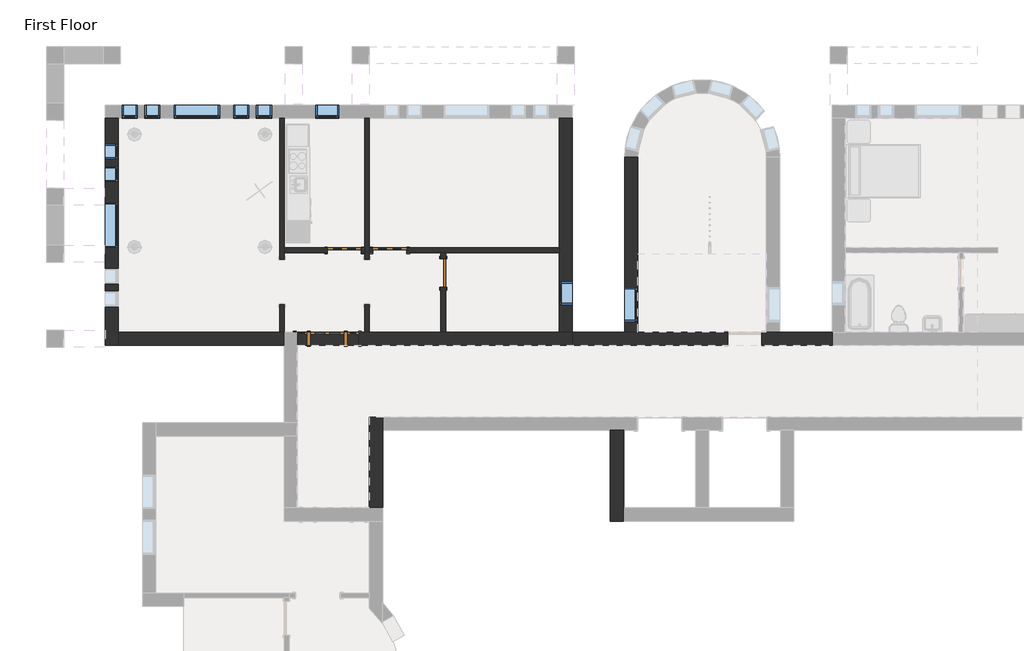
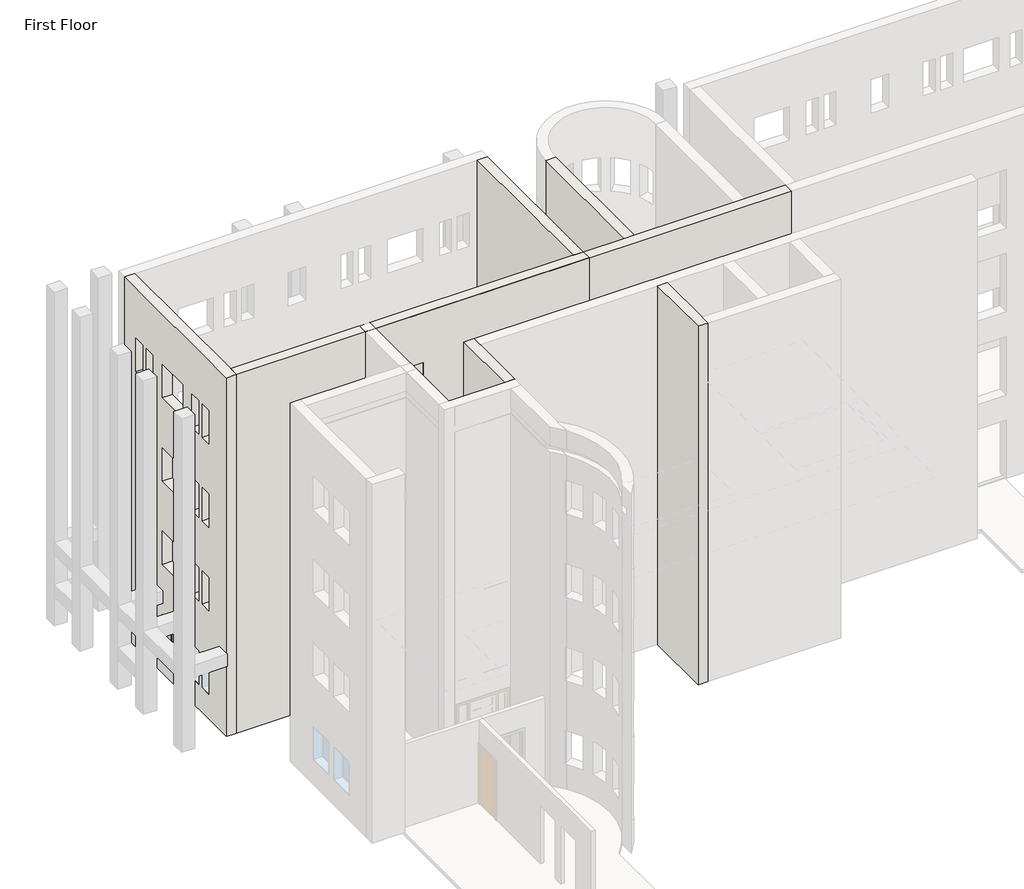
# One storey, part 14 of 23: 12 walls, 11 windows, 4 doors.
"""IFC4 building model written with IfcOpenShell, lengths in millimetres."""

from ifc_helpers import new_model, si_unit, frame, origin, place, context, project, spatial, polyline, outline, extrude, faceted_brep, transform, mapped, element, save
from components import door_829da954, door_2e3b4da2, door_e36758a9, door_ffdb1193, window_da97879f, window_d61ef850, window_ed80354a, window_15c49d37, window_d89bf842

model = new_model("IFC4")

# Units and contexts
model_context = context("Model", 3, world=origin())
ifc_project = project(units=[si_unit("LENGTHUNIT", "METRE", prefix="MILLI")], contexts=[model_context])

# Site, building, storey
site = spatial("IfcSite", under=ifc_project)
building = spatial("IfcBuilding", under=site)
storey = spatial("IfcBuildingStorey", under=building, Name="First Floor", Elevation=0.0)

# Doors
placement = place(None, origin())
door_shape = door_829da954(model_context)
element("IfcDoor", 1, ObjectType="Single-Decorative 2 : 36\" x 84\"", at=placement, inside=storey, context=model_context, shape_type="MappedRepresentation", body=[
    mapped(door_shape, transform((-23455.2839563, 6723.5441867, 0.0), x_axis=(-1.0, 0.0, 0.0), y_axis=(0.0, -1.0, 0.0), z_axis=(0.0, 0.0, 1.0))),
])
door_2_shape = door_2e3b4da2(model_context)
element("IfcDoor", 2, ObjectType="Single-Decorative 2 : 36\" x 84\"", at=placement, inside=storey, context=model_context, shape_type="MappedRepresentation", body=[
    mapped(door_2_shape, transform((-24674.4839563, 6723.5441867, 0.0), x_axis=(1.0, 0.0, 0.0), y_axis=(0.0, 1.0, 0.0), z_axis=(0.0, 0.0, 1.0))),
])
door_3_shape = door_e36758a9(model_context)
element("IfcDoor", 3, ObjectType="Single-Flush : 30\" x 84\"", at=placement, inside=storey, context=model_context, shape_type="MappedRepresentation", body=[
    mapped(door_3_shape, transform((-22018.5964563, 6113.9441867, 0.0), x_axis=(0.0, 1.0, 0.0), y_axis=(-1.0, 0.0, 0.0), z_axis=(0.0, 0.0, 1.0))),
])
door_4_shape = door_ffdb1193(model_context)
element("IfcDoor", 4, ObjectType="Single-Raised Panel with Sidelights : 36\" x 84\"", at=placement, inside=storey, context=model_context, shape_type="MappedRepresentation", body=[
    mapped(door_4_shape, transform((-25131.6839563, 4350.2316867, 0.0), x_axis=(1.0, 0.0, 0.0), y_axis=(0.0, 1.0, 0.0), z_axis=(0.0, 0.0, 1.0))),
])

# Walls
element("IfcWall", 5, ObjectType="Exterior - Brick on Mtl. Stud", at=placement, inside=storey, context=model_context, shape_type="Brep", body=[
    faceted_brep([(-17524.3839563, 1888.0191867, 0.0), (-17524.3839563, -550.3808133, 0.0), (-17524.3839563, -550.3808133, 13106.4), (-17524.3839563, 1888.0191867, 13106.4), (-17171.9589563, 1888.0191867, 0.0), (-17171.9589563, 1888.0191867, 13106.4), (-17171.9589563, -197.9558133, 13106.4), (-17171.9589563, -550.3808133, 13106.4), (-17171.9589563, -550.3808133, 0.0), (-17171.9589563, -197.9558133, 0.0)], [[[0, 1, 2, 3]], [[4, 5, 6, 7, 8, 9]], [[1, 0, 4, 9, 8]], [[3, 2, 7, 6, 5]], [[2, 1, 8, 7]], [[0, 3, 5, 4]]]),
])
element("IfcWall", 6, ObjectType="Exterior - Brick on Mtl. Stud", at=placement, inside=storey, context=model_context, shape_type="SweptSolid", body=[
    extrude(outline(polyline([(4526.4441867, 0.0), (4526.4441867, 13106.4), (9227.0316867, 13106.4), (9227.0316867, 0.0), (4526.4441867, 0.0)]), holes=[polyline([(4807.4316867, 8229.6), (4807.4316867, 7010.4), (5721.8316867, 7010.4), (5721.8316867, 8229.6), (4807.4316867, 8229.6)]), polyline([(4807.4316867, 5181.6), (4807.4316867, 3962.4), (5721.8316867, 3962.4), (5721.8316867, 5181.6), (4807.4316867, 5181.6)]), polyline([(4807.4316867, 11277.6), (4807.4316867, 10058.4), (5721.8316867, 10058.4), (5721.8316867, 11277.6), (4807.4316867, 11277.6)]), polyline([(4807.4316867, 2133.6), (4807.4316867, 914.4), (5721.8316867, 914.4), (5721.8316867, 2133.6), (4807.4316867, 2133.6)])]), frame((-17143.3839563, 0.0, 0.0), z_axis=(1.0, 0.0, 0.0), x_axis=(0.0, 1.0, 0.0)), (0.0, 0.0, 1.0), 352.425),
])
element("IfcWall", 7, ObjectType="Exterior - Brick on Mtl. Stud", at=placement, inside=storey, context=model_context, shape_type="Brep", body=[
    faceted_brep([(-24001.3839563, 2240.4441867, 0.0), (-24001.3839563, -197.9558133, 0.0), (-24001.3839563, -197.9558133, 13106.4), (-24001.3839563, 2240.4441867, 13106.4), (-23648.9589563, 2240.4441867, 0.0), (-23648.9589563, 2240.4441867, 13106.4), (-23648.9589563, 1888.0191867, 13106.4), (-23648.9589563, -197.9558133, 13106.4), (-23648.9589563, -197.9558133, 0.0), (-23648.9589563, 1888.0191867, 0.0)], [[[0, 1, 2, 3]], [[4, 5, 6, 7, 8, 9]], [[1, 0, 4, 9, 8]], [[3, 2, 7, 6, 5]], [[0, 3, 5, 4]], [[2, 1, 8, 7]]]),
])
element("IfcWall", 8, ObjectType="Exterior - Brick on Mtl. Stud", at=placement, inside=storey, context=model_context, shape_type="Brep", body=[
    faceted_brep([(-11571.2589563, 4526.4441867, 0.0), (-12980.9589563, 4526.4441867, 0.0), (-13333.3839563, 4526.4441867, 0.0), (-13461.9714563, 4526.4441867, 0.0), (-13461.9714563, 4526.4441867, 2133.6), (-14376.3714563, 4526.4441867, 2133.6), (-14376.3714563, 4526.4441867, 0.0), (-16790.9589563, 4526.4441867, 0.0), (-17143.3839563, 4526.4441867, 0.0), (-18554.6714563, 4526.4441867, 0.0), (-18907.0964563, 4526.4441867, 0.0), (-21955.0964563, 4526.4441867, 0.0), (-22082.0964563, 4526.4441867, 0.0), (-24001.3839563, 4526.4441867, 0.0), (-24128.3839563, 4526.4441867, 0.0), (-25934.9589563, 4526.4441867, 0.0), (-25934.9589563, 4526.4441867, 13106.4), (-18907.0964563, 4526.4441867, 13106.4), (-18554.6714563, 4526.4441867, 13106.4), (-17143.3839563, 4526.4441867, 13106.4), (-16790.9589563, 4526.4441867, 13106.4), (-13333.3839563, 4526.4441867, 13106.4), (-12980.9589563, 4526.4441867, 13106.4), (-11571.2589563, 4526.4441867, 13106.4), (-14376.3714563, 4526.4441867, 9144.0), (-13461.9714563, 4526.4441867, 9144.0), (-13461.9714563, 4526.4441867, 11277.6), (-14376.3714563, 4526.4441867, 11277.6), (-14376.3714563, 4526.4441867, 3048.0), (-13461.9714563, 4526.4441867, 3048.0), (-13461.9714563, 4526.4441867, 5181.6), (-14376.3714563, 4526.4441867, 5181.6), (-14376.3714563, 4526.4441867, 6096.0), (-13461.9714563, 4526.4441867, 6096.0), (-13461.9714563, 4526.4441867, 8229.6), (-14376.3714563, 4526.4441867, 8229.6), (-13461.9714563, 4174.0191867, 2133.6), (-13461.9714563, 4174.0191867, 0.0), (-11571.2589563, 4174.0191867, 0.0), (-11571.2589563, 4174.0191867, 13106.4), (-25934.9589563, 4174.0191867, 13106.4), (-25934.9589563, 4174.0191867, 0.0), (-14376.3714563, 4174.0191867, 0.0), (-14376.3714563, 4174.0191867, 2133.6), (-14376.3714563, 4174.0191867, 9144.0), (-14376.3714563, 4174.0191867, 11277.6), (-13461.9714563, 4174.0191867, 11277.6), (-13461.9714563, 4174.0191867, 9144.0), (-14376.3714563, 4174.0191867, 3048.0), (-14376.3714563, 4174.0191867, 5181.6), (-13461.9714563, 4174.0191867, 5181.6), (-13461.9714563, 4174.0191867, 3048.0), (-14376.3714563, 4174.0191867, 6096.0), (-14376.3714563, 4174.0191867, 8229.6), (-13461.9714563, 4174.0191867, 8229.6), (-13461.9714563, 4174.0191867, 6096.0)], [[[0, 1, 2, 3, 4, 5, 6, 7, 8, 9, 10, 11, 12, 13, 14, 15, 16, 17, 18, 19, 20, 21, 22, 23], [24, 25, 26, 27], [28, 29, 30, 31], [32, 33, 34, 35]], [[36, 37, 38, 39, 40, 41, 42, 43], [44, 45, 46, 47], [48, 49, 50, 51], [52, 53, 54, 55]], [[38, 37, 3, 2, 1, 0]], [[42, 41, 15, 14, 13, 12, 11, 10, 9, 8, 7, 6]], [[23, 22, 21, 20, 19, 18, 17, 16, 40, 39]], [[0, 23, 39, 38]], [[16, 15, 41, 40]], [[4, 3, 37, 36]], [[5, 4, 36, 43]], [[6, 5, 43, 42]], [[25, 24, 44, 47]], [[26, 25, 47, 46]], [[27, 26, 46, 45]], [[24, 27, 45, 44]], [[29, 28, 48, 51]], [[30, 29, 51, 50]], [[31, 30, 50, 49]], [[28, 31, 49, 48]], [[33, 32, 52, 55]], [[34, 33, 55, 54]], [[35, 34, 54, 53]], [[32, 35, 53, 52]]]),
])
element("IfcWall", 9, ObjectType="Exterior - Brick on Mtl. Stud", at=placement, inside=storey, context=model_context, shape_type="Brep", body=[
    faceted_brep([(-31099.0964563, 10270.0191867, 0.0), (-31099.0964563, 4361.3441867, 0.0), (-31099.0964563, 4174.0191867, 0.0), (-31099.0964563, 4174.0191867, 13106.4), (-31099.0964563, 10270.0191867, 13106.4), (-31099.0964563, 5823.4316867, 8229.6), (-31099.0964563, 5823.4316867, 7010.4), (-31099.0964563, 6229.8316867, 7010.4), (-31099.0964563, 6229.8316867, 8229.6), (-31099.0964563, 5213.8316867, 8229.6), (-31099.0964563, 5213.8316867, 7010.4), (-31099.0964563, 5620.2316867, 7010.4), (-31099.0964563, 5620.2316867, 8229.6), (-31099.0964563, 8973.0316867, 8229.6), (-31099.0964563, 8566.6316867, 8229.6), (-31099.0964563, 8566.6316867, 7010.4), (-31099.0964563, 8973.0316867, 7010.4), (-31099.0964563, 9582.6316867, 8229.6), (-31099.0964563, 9176.2316867, 8229.6), (-31099.0964563, 9176.2316867, 7010.4), (-31099.0964563, 9582.6316867, 7010.4), (-31099.0964563, 8007.8316867, 8229.6), (-31099.0964563, 6788.6316867, 8229.6), (-31099.0964563, 6788.6316867, 7010.4), (-31099.0964563, 8007.8316867, 7010.4), (-31099.0964563, 5823.4316867, 5181.6), (-31099.0964563, 5823.4316867, 3962.4), (-31099.0964563, 6229.8316867, 3962.4), (-31099.0964563, 6229.8316867, 5181.6), (-31099.0964563, 5213.8316867, 5181.6), (-31099.0964563, 5213.8316867, 3962.4), (-31099.0964563, 5620.2316867, 3962.4), (-31099.0964563, 5620.2316867, 5181.6), (-31099.0964563, 8973.0316867, 5181.6), (-31099.0964563, 8566.6316867, 5181.6), (-31099.0964563, 8566.6316867, 3962.4), (-31099.0964563, 8973.0316867, 3962.4), (-31099.0964563, 9582.6316867, 5181.6), (-31099.0964563, 9176.2316867, 5181.6), (-31099.0964563, 9176.2316867, 3962.4), (-31099.0964563, 9582.6316867, 3962.4), (-31099.0964563, 8007.8316867, 5181.6), (-31099.0964563, 6788.6316867, 5181.6), (-31099.0964563, 6788.6316867, 3962.4), (-31099.0964563, 8007.8316867, 3962.4), (-31099.0964563, 5823.4316867, 11277.6), (-31099.0964563, 5823.4316867, 10058.4), (-31099.0964563, 6229.8316867, 10058.4), (-31099.0964563, 6229.8316867, 11277.6), (-31099.0964563, 5213.8316867, 11277.6), (-31099.0964563, 5213.8316867, 10058.4), (-31099.0964563, 5620.2316867, 10058.4), (-31099.0964563, 5620.2316867, 11277.6), (-31099.0964563, 8973.0316867, 11277.6), (-31099.0964563, 8566.6316867, 11277.6), (-31099.0964563, 8566.6316867, 10058.4), (-31099.0964563, 8973.0316867, 10058.4), (-31099.0964563, 9582.6316867, 11277.6), (-31099.0964563, 9176.2316867, 11277.6), (-31099.0964563, 9176.2316867, 10058.4), (-31099.0964563, 9582.6316867, 10058.4), (-31099.0964563, 8007.8316867, 11277.6), (-31099.0964563, 6788.6316867, 11277.6), (-31099.0964563, 6788.6316867, 10058.4), (-31099.0964563, 8007.8316867, 10058.4), (-31099.0964563, 5823.4316867, 2133.6), (-31099.0964563, 5823.4316867, 914.4), (-31099.0964563, 6229.8316867, 914.4), (-31099.0964563, 6229.8316867, 2133.6), (-31099.0964563, 5213.8316867, 2133.6), (-31099.0964563, 5213.8316867, 914.4), (-31099.0964563, 5620.2316867, 914.4), (-31099.0964563, 5620.2316867, 2133.6), (-31099.0964563, 8973.0316867, 2133.6), (-31099.0964563, 8566.6316867, 2133.6), (-31099.0964563, 8566.6316867, 914.4), (-31099.0964563, 8973.0316867, 914.4), (-31099.0964563, 9582.6316867, 2133.6), (-31099.0964563, 9176.2316867, 2133.6), (-31099.0964563, 9176.2316867, 914.4), (-31099.0964563, 9582.6316867, 914.4), (-31099.0964563, 8007.8316867, 2133.6), (-31099.0964563, 6788.6316867, 2133.6), (-31099.0964563, 6788.6316867, 914.4), (-31099.0964563, 8007.8316867, 914.4), (-30746.6714563, 10270.0191867, 0.0), (-30746.6714563, 10270.0191867, 13106.4), (-30746.6714563, 4526.4441867, 13106.4), (-30746.6714563, 4174.0191867, 13106.4), (-30746.6714563, 4174.0191867, 0.0), (-30746.6714563, 4361.3441867, 0.0), (-30746.6714563, 4526.4441867, 0.0), (-30746.6714563, 5823.4316867, 8229.6), (-30746.6714563, 6229.8316867, 8229.6), (-30746.6714563, 6229.8316867, 7010.4), (-30746.6714563, 5823.4316867, 7010.4), (-30746.6714563, 5213.8316867, 8229.6), (-30746.6714563, 5620.2316867, 8229.6), (-30746.6714563, 5620.2316867, 7010.4), (-30746.6714563, 5213.8316867, 7010.4), (-30746.6714563, 8973.0316867, 8229.6), (-30746.6714563, 8973.0316867, 7010.4), (-30746.6714563, 8566.6316867, 7010.4), (-30746.6714563, 8566.6316867, 8229.6), (-30746.6714563, 9582.6316867, 8229.6), (-30746.6714563, 9582.6316867, 7010.4), (-30746.6714563, 9176.2316867, 7010.4), (-30746.6714563, 9176.2316867, 8229.6), (-30746.6714563, 8007.8316867, 8229.6), (-30746.6714563, 8007.8316867, 7010.4), (-30746.6714563, 6788.6316867, 7010.4), (-30746.6714563, 6788.6316867, 8229.6), (-30746.6714563, 5823.4316867, 5181.6), (-30746.6714563, 6229.8316867, 5181.6), (-30746.6714563, 6229.8316867, 3962.4), (-30746.6714563, 5823.4316867, 3962.4), (-30746.6714563, 5213.8316867, 5181.6), (-30746.6714563, 5620.2316867, 5181.6), (-30746.6714563, 5620.2316867, 3962.4), (-30746.6714563, 5213.8316867, 3962.4), (-30746.6714563, 8973.0316867, 5181.6), (-30746.6714563, 8973.0316867, 3962.4), (-30746.6714563, 8566.6316867, 3962.4), (-30746.6714563, 8566.6316867, 5181.6), (-30746.6714563, 9582.6316867, 5181.6), (-30746.6714563, 9582.6316867, 3962.4), (-30746.6714563, 9176.2316867, 3962.4), (-30746.6714563, 9176.2316867, 5181.6), (-30746.6714563, 8007.8316867, 5181.6), (-30746.6714563, 8007.8316867, 3962.4), (-30746.6714563, 6788.6316867, 3962.4), (-30746.6714563, 6788.6316867, 5181.6), (-30746.6714563, 5823.4316867, 11277.6), (-30746.6714563, 6229.8316867, 11277.6), (-30746.6714563, 6229.8316867, 10058.4), (-30746.6714563, 5823.4316867, 10058.4), (-30746.6714563, 5213.8316867, 11277.6), (-30746.6714563, 5620.2316867, 11277.6), (-30746.6714563, 5620.2316867, 10058.4), (-30746.6714563, 5213.8316867, 10058.4), (-30746.6714563, 8973.0316867, 11277.6), (-30746.6714563, 8973.0316867, 10058.4), (-30746.6714563, 8566.6316867, 10058.4), (-30746.6714563, 8566.6316867, 11277.6), (-30746.6714563, 9582.6316867, 11277.6), (-30746.6714563, 9582.6316867, 10058.4), (-30746.6714563, 9176.2316867, 10058.4), (-30746.6714563, 9176.2316867, 11277.6), (-30746.6714563, 8007.8316867, 11277.6), (-30746.6714563, 8007.8316867, 10058.4), (-30746.6714563, 6788.6316867, 10058.4), (-30746.6714563, 6788.6316867, 11277.6), (-30746.6714563, 5823.4316867, 2133.6), (-30746.6714563, 6229.8316867, 2133.6), (-30746.6714563, 6229.8316867, 914.4), (-30746.6714563, 5823.4316867, 914.4), (-30746.6714563, 5213.8316867, 2133.6), (-30746.6714563, 5620.2316867, 2133.6), (-30746.6714563, 5620.2316867, 914.4), (-30746.6714563, 5213.8316867, 914.4), (-30746.6714563, 8973.0316867, 2133.6), (-30746.6714563, 8973.0316867, 914.4), (-30746.6714563, 8566.6316867, 914.4), (-30746.6714563, 8566.6316867, 2133.6), (-30746.6714563, 9582.6316867, 2133.6), (-30746.6714563, 9582.6316867, 914.4), (-30746.6714563, 9176.2316867, 914.4), (-30746.6714563, 9176.2316867, 2133.6), (-30746.6714563, 8007.8316867, 2133.6), (-30746.6714563, 8007.8316867, 914.4), (-30746.6714563, 6788.6316867, 914.4), (-30746.6714563, 6788.6316867, 2133.6), (-30911.7714563, 4174.0191867, 0.0), (-30911.7714563, 10270.0191867, 0.0), (-30911.7714563, 4361.3441867, 0.0)], [[[0, 1, 2, 3, 4], [5, 6, 7, 8], [9, 10, 11, 12], [13, 14, 15, 16], [17, 18, 19, 20], [21, 22, 23, 24], [25, 26, 27, 28], [29, 30, 31, 32], [33, 34, 35, 36], [37, 38, 39, 40], [41, 42, 43, 44], [45, 46, 47, 48], [49, 50, 51, 52], [53, 54, 55, 56], [57, 58, 59, 60], [61, 62, 63, 64], [65, 66, 67, 68], [69, 70, 71, 72], [73, 74, 75, 76], [77, 78, 79, 80], [81, 82, 83, 84]], [[85, 86, 87, 88, 89, 90, 91], [92, 93, 94, 95], [96, 97, 98, 99], [100, 101, 102, 103], [104, 105, 106, 107], [108, 109, 110, 111], [112, 113, 114, 115], [116, 117, 118, 119], [120, 121, 122, 123], [124, 125, 126, 127], [128, 129, 130, 131], [132, 133, 134, 135], [136, 137, 138, 139], [140, 141, 142, 143], [144, 145, 146, 147], [148, 149, 150, 151], [152, 153, 154, 155], [156, 157, 158, 159], [160, 161, 162, 163], [164, 165, 166, 167], [168, 169, 170, 171]], [[4, 3, 88, 87, 86]], [[3, 2, 172, 89, 88]], [[0, 4, 86, 85, 173]], [[90, 89, 172, 174]], [[1, 0, 173, 174]], [[2, 1, 174, 172]], [[173, 85, 91, 90, 174]], [[6, 5, 92, 95]], [[7, 6, 95, 94]], [[8, 7, 94, 93]], [[5, 8, 93, 92]], [[10, 9, 96, 99]], [[11, 10, 99, 98]], [[12, 11, 98, 97]], [[9, 12, 97, 96]], [[101, 100, 13, 16]], [[102, 101, 16, 15]], [[103, 102, 15, 14]], [[100, 103, 14, 13]], [[105, 104, 17, 20]], [[106, 105, 20, 19]], [[107, 106, 19, 18]], [[104, 107, 18, 17]], [[109, 108, 21, 24]], [[110, 109, 24, 23]], [[111, 110, 23, 22]], [[108, 111, 22, 21]], [[26, 25, 112, 115]], [[27, 26, 115, 114]], [[28, 27, 114, 113]], [[25, 28, 113, 112]], [[30, 29, 116, 119]], [[31, 30, 119, 118]], [[32, 31, 118, 117]], [[29, 32, 117, 116]], [[121, 120, 33, 36]], [[122, 121, 36, 35]], [[123, 122, 35, 34]], [[120, 123, 34, 33]], [[125, 124, 37, 40]], [[126, 125, 40, 39]], [[127, 126, 39, 38]], [[124, 127, 38, 37]], [[129, 128, 41, 44]], [[130, 129, 44, 43]], [[131, 130, 43, 42]], [[128, 131, 42, 41]], [[46, 45, 132, 135]], [[47, 46, 135, 134]], [[48, 47, 134, 133]], [[45, 48, 133, 132]], [[50, 49, 136, 139]], [[51, 50, 139, 138]], [[52, 51, 138, 137]], [[49, 52, 137, 136]], [[141, 140, 53, 56]], [[142, 141, 56, 55]], [[143, 142, 55, 54]], [[140, 143, 54, 53]], [[145, 144, 57, 60]], [[146, 145, 60, 59]], [[147, 146, 59, 58]], [[144, 147, 58, 57]], [[149, 148, 61, 64]], [[150, 149, 64, 63]], [[151, 150, 63, 62]], [[148, 151, 62, 61]], [[66, 65, 152, 155]], [[67, 66, 155, 154]], [[68, 67, 154, 153]], [[65, 68, 153, 152]], [[70, 69, 156, 159]], [[71, 70, 159, 158]], [[72, 71, 158, 157]], [[69, 72, 157, 156]], [[161, 160, 73, 76]], [[162, 161, 76, 75]], [[163, 162, 75, 74]], [[160, 163, 74, 73]], [[165, 164, 77, 80]], [[166, 165, 80, 79]], [[167, 166, 79, 78]], [[164, 167, 78, 77]], [[169, 168, 81, 84]], [[170, 169, 84, 83]], [[171, 170, 83, 82]], [[168, 171, 82, 81]]]),
])
element("IfcWall", 10, ObjectType="Exterior - Brick on Mtl. Stud", at=placement, inside=storey, context=model_context, shape_type="Brep", body=[
    faceted_brep([(-24293.4839563, 4174.0191867, 2133.6), (-24293.4839563, 4174.0191867, 0.0), (-18553.0839563, 4174.0191867, 0.0), (-18553.0839563, 4174.0191867, 13106.4), (-30746.6714563, 4174.0191867, 13106.4), (-30746.6714563, 4174.0191867, 0.0), (-25969.8839563, 4174.0191867, 0.0), (-25969.8839563, 4174.0191867, 2133.6), (-25969.8839563, 4174.0191867, 6096.0), (-25969.8839563, 4174.0191867, 8229.6), (-24293.4839563, 4174.0191867, 8229.6), (-24293.4839563, 4174.0191867, 6096.0), (-25969.8839563, 4174.0191867, 3048.0), (-25969.8839563, 4174.0191867, 5181.6), (-24293.4839563, 4174.0191867, 5181.6), (-24293.4839563, 4174.0191867, 3048.0), (-25969.8839563, 4174.0191867, 9144.0), (-25969.8839563, 4174.0191867, 11277.6), (-24293.4839563, 4174.0191867, 11277.6), (-24293.4839563, 4174.0191867, 9144.0), (-18553.0839563, 4526.4441867, 0.0), (-18554.6714563, 4526.4441867, 0.0), (-18907.0964563, 4526.4441867, 0.0), (-21955.0964563, 4526.4441867, 0.0), (-22082.0964563, 4526.4441867, 0.0), (-24001.3839563, 4526.4441867, 0.0), (-24128.3839563, 4526.4441867, 0.0), (-24293.4839563, 4526.4441867, 0.0), (-24293.4839563, 4526.4441867, 2133.6), (-25969.8839563, 4526.4441867, 2133.6), (-25969.8839563, 4526.4441867, 0.0), (-26287.3839563, 4526.4441867, 0.0), (-26414.3839563, 4526.4441867, 0.0), (-30746.6714563, 4526.4441867, 0.0), (-30746.6714563, 4526.4441867, 13106.4), (-18907.0964563, 4526.4441867, 13106.4), (-18554.6714563, 4526.4441867, 13106.4), (-18553.0839563, 4526.4441867, 13106.4), (-25969.8839563, 4526.4441867, 6096.0), (-24293.4839563, 4526.4441867, 6096.0), (-24293.4839563, 4526.4441867, 8229.6), (-25969.8839563, 4526.4441867, 8229.6), (-25969.8839563, 4526.4441867, 3048.0), (-24293.4839563, 4526.4441867, 3048.0), (-24293.4839563, 4526.4441867, 5181.6), (-25969.8839563, 4526.4441867, 5181.6), (-25969.8839563, 4526.4441867, 9144.0), (-24293.4839563, 4526.4441867, 9144.0), (-24293.4839563, 4526.4441867, 11277.6), (-25969.8839563, 4526.4441867, 11277.6)], [[[0, 1, 2, 3, 4, 5, 6, 7], [8, 9, 10, 11], [12, 13, 14, 15], [16, 17, 18, 19]], [[20, 21, 22, 23, 24, 25, 26, 27, 28, 29, 30, 31, 32, 33, 34, 35, 36, 37], [38, 39, 40, 41], [42, 43, 44, 45], [46, 47, 48, 49]], [[2, 1, 27, 26, 25, 24, 23, 22, 21, 20]], [[6, 5, 33, 32, 31, 30]], [[3, 2, 20, 37]], [[4, 3, 37, 36, 35, 34]], [[5, 4, 34, 33]], [[28, 27, 1, 0]], [[29, 28, 0, 7]], [[30, 29, 7, 6]], [[39, 38, 8, 11]], [[40, 39, 11, 10]], [[41, 40, 10, 9]], [[38, 41, 9, 8]], [[43, 42, 12, 15]], [[44, 43, 15, 14]], [[45, 44, 14, 13]], [[42, 45, 13, 12]], [[47, 46, 16, 19]], [[48, 47, 19, 18]], [[49, 48, 18, 17]], [[46, 49, 17, 16]]]),
])
element("IfcWall", 11, ObjectType="Exterior - Brick on Mtl. Stud", at=placement, inside=storey, context=model_context, shape_type="Brep", body=[
    faceted_brep([(-18554.6714563, 4526.4441867, 0.0), (-18554.6714563, 10270.0191867, 0.0), (-18554.6714563, 10270.0191867, 13106.4), (-18554.6714563, 4526.4441867, 13106.4), (-18554.6714563, 5264.6316867, 8229.6), (-18554.6714563, 5874.2316867, 8229.6), (-18554.6714563, 5874.2316867, 7010.4), (-18554.6714563, 5264.6316867, 7010.4), (-18554.6714563, 5264.6316867, 5181.6), (-18554.6714563, 5874.2316867, 5181.6), (-18554.6714563, 5874.2316867, 3962.4), (-18554.6714563, 5264.6316867, 3962.4), (-18554.6714563, 5264.6316867, 11277.6), (-18554.6714563, 5874.2316867, 11277.6), (-18554.6714563, 5874.2316867, 10058.4), (-18554.6714563, 5264.6316867, 10058.4), (-18554.6714563, 5264.6316867, 2133.6), (-18554.6714563, 5874.2316867, 2133.6), (-18554.6714563, 5874.2316867, 914.4), (-18554.6714563, 5264.6316867, 914.4), (-18907.0964563, 4526.4441867, 0.0), (-18907.0964563, 4526.4441867, 13106.4), (-18907.0964563, 10270.0191867, 13106.4), (-18907.0964563, 10270.0191867, 0.0), (-18907.0964563, 6787.0441867, 0.0), (-18907.0964563, 6660.0441867, 0.0), (-18907.0964563, 5264.6316867, 8229.6), (-18907.0964563, 5264.6316867, 7010.4), (-18907.0964563, 5874.2316867, 7010.4), (-18907.0964563, 5874.2316867, 8229.6), (-18907.0964563, 5264.6316867, 5181.6), (-18907.0964563, 5264.6316867, 3962.4), (-18907.0964563, 5874.2316867, 3962.4), (-18907.0964563, 5874.2316867, 5181.6), (-18907.0964563, 5264.6316867, 11277.6), (-18907.0964563, 5264.6316867, 10058.4), (-18907.0964563, 5874.2316867, 10058.4), (-18907.0964563, 5874.2316867, 11277.6), (-18907.0964563, 5264.6316867, 2133.6), (-18907.0964563, 5264.6316867, 914.4), (-18907.0964563, 5874.2316867, 914.4), (-18907.0964563, 5874.2316867, 2133.6), (-18741.9964563, 4526.4441867, 0.0), (-18741.9964563, 10270.0191867, 0.0)], [[[0, 1, 2, 3], [4, 5, 6, 7], [8, 9, 10, 11], [12, 13, 14, 15], [16, 17, 18, 19]], [[20, 21, 22, 23, 24, 25], [26, 27, 28, 29], [30, 31, 32, 33], [34, 35, 36, 37], [38, 39, 40, 41]], [[3, 2, 22, 21]], [[0, 3, 21, 20, 42]], [[2, 1, 43, 23, 22]], [[1, 0, 42, 43]], [[42, 20, 25, 24, 23, 43]], [[27, 26, 4, 7]], [[28, 27, 7, 6]], [[29, 28, 6, 5]], [[26, 29, 5, 4]], [[31, 30, 8, 11]], [[32, 31, 11, 10]], [[33, 32, 10, 9]], [[30, 33, 9, 8]], [[35, 34, 12, 15]], [[36, 35, 15, 14]], [[37, 36, 14, 13]], [[34, 37, 13, 12]], [[39, 38, 16, 19]], [[40, 39, 19, 18]], [[41, 40, 18, 17]], [[38, 41, 17, 16]]]),
])
element("IfcWall", 12, ObjectType="Interior - 5\" Partition (2-hr)", at=placement, inside=storey, context=model_context, shape_type="Brep", body=[
    faceted_brep([(-26414.3839563, 10270.0191867, 0.0), (-26414.3839563, 6483.8316867, 0.0), (-26414.3839563, 6483.8316867, 2133.6), (-26414.3839563, 5264.6316867, 2133.6), (-26414.3839563, 5264.6316867, 0.0), (-26414.3839563, 4526.4441867, 0.0), (-26414.3839563, 4526.4441867, 3048.0), (-26414.3839563, 10270.0191867, 3048.0), (-26287.3839563, 6483.8316867, 2133.6), (-26287.3839563, 6483.8316867, 0.0), (-26287.3839563, 6660.0441867, 0.0), (-26287.3839563, 6787.0441867, 0.0), (-26287.3839563, 10270.0191867, 0.0), (-26287.3839563, 10270.0191867, 3048.0), (-26287.3839563, 6787.0441867, 3048.0), (-26287.3839563, 6660.0441867, 3048.0), (-26287.3839563, 4526.4441867, 3048.0), (-26287.3839563, 4526.4441867, 0.0), (-26287.3839563, 5264.6316867, 0.0), (-26287.3839563, 5264.6316867, 2133.6)], [[[0, 1, 2, 3, 4, 5, 6, 7]], [[8, 9, 10, 11, 12, 13, 14, 15, 16, 17, 18, 19]], [[12, 11, 10, 9, 1, 0]], [[18, 17, 5, 4]], [[7, 6, 16, 15, 14, 13]], [[0, 7, 13, 12]], [[6, 5, 17, 16]], [[4, 3, 19, 18]], [[2, 1, 9, 8]], [[3, 2, 8, 19]]]),
])
element("IfcWall", 13, ObjectType="Interior - 5\" Partition (2-hr)", at=placement, inside=storey, context=model_context, shape_type="Brep", body=[
    faceted_brep([(-24128.3839563, 5264.6316867, 2133.6), (-24128.3839563, 5264.6316867, 0.0), (-24128.3839563, 4526.4441867, 0.0), (-24128.3839563, 4526.4441867, 3048.0), (-24128.3839563, 6660.0441867, 3048.0), (-24128.3839563, 6787.0441867, 3048.0), (-24128.3839563, 10270.0191867, 3048.0), (-24128.3839563, 10270.0191867, 0.0), (-24128.3839563, 6787.0441867, 0.0), (-24128.3839563, 6660.0441867, 0.0), (-24128.3839563, 6483.8316867, 0.0), (-24128.3839563, 6483.8316867, 2133.6), (-24001.3839563, 4526.4441867, 0.0), (-24001.3839563, 5264.6316867, 0.0), (-24001.3839563, 5264.6316867, 2133.6), (-24001.3839563, 6483.8316867, 2133.6), (-24001.3839563, 6483.8316867, 0.0), (-24001.3839563, 6660.0441867, 0.0), (-24001.3839563, 6787.0441867, 0.0), (-24001.3839563, 10270.0191867, 0.0), (-24001.3839563, 10270.0191867, 3048.0), (-24001.3839563, 6787.0441867, 3048.0), (-24001.3839563, 6660.0441867, 3048.0), (-24001.3839563, 4526.4441867, 3048.0)], [[[0, 1, 2, 3, 4, 5, 6, 7, 8, 9, 10, 11]], [[12, 13, 14, 15, 16, 17, 18, 19, 20, 21, 22, 23]], [[2, 1, 13, 12]], [[10, 9, 8, 7, 19, 18, 17, 16]], [[6, 5, 4, 3, 23, 22, 21, 20]], [[7, 6, 20, 19]], [[3, 2, 12, 23]], [[16, 15, 11, 10]], [[14, 13, 1, 0]], [[15, 14, 0, 11]]]),
])
element("IfcWall", 14, ObjectType="Interior - 5\" Partition (2-hr)", at=placement, inside=storey, context=model_context, shape_type="Brep", body=[
    faceted_brep([(-23912.4839563, 6787.0441867, 2133.6), (-23912.4839563, 6787.0441867, 0.0), (-24001.3839563, 6787.0441867, 0.0), (-24001.3839563, 6787.0441867, 3048.0), (-18907.0964563, 6787.0441867, 3048.0), (-18907.0964563, 6787.0441867, 0.0), (-22998.0839563, 6787.0441867, 0.0), (-22998.0839563, 6787.0441867, 2133.6), (-24001.3839563, 6660.0441867, 0.0), (-23912.4839563, 6660.0441867, 0.0), (-23912.4839563, 6660.0441867, 2133.6), (-22998.0839563, 6660.0441867, 2133.6), (-22998.0839563, 6660.0441867, 0.0), (-22082.0964563, 6660.0441867, 0.0), (-21955.0964563, 6660.0441867, 0.0), (-18907.0964563, 6660.0441867, 0.0), (-18907.0964563, 6660.0441867, 3048.0), (-21955.0964563, 6660.0441867, 3048.0), (-22082.0964563, 6660.0441867, 3048.0), (-24001.3839563, 6660.0441867, 3048.0)], [[[0, 1, 2, 3, 4, 5, 6, 7]], [[8, 9, 10, 11, 12, 13, 14, 15, 16, 17, 18, 19]], [[2, 1, 9, 8]], [[6, 5, 15, 14, 13, 12]], [[4, 3, 19, 18, 17, 16]], [[5, 4, 16, 15]], [[3, 2, 8, 19]], [[10, 9, 1, 0]], [[11, 10, 0, 7]], [[12, 11, 7, 6]]]),
])
element("IfcWall", 15, ObjectType="Interior - 5\" Partition (2-hr)", at=placement, inside=storey, context=model_context, shape_type="SweptSolid", body=[
    extrude(outline(polyline([(6660.0441867, 0.0), (6494.9441867, 0.0), (6494.9441867, 2133.6), (5732.9441867, 2133.6), (5732.9441867, 0.0), (4526.4441867, 0.0), (4526.4441867, 3048.0), (6660.0441867, 3048.0), (6660.0441867, 0.0)])), frame((-22082.0964563, 0.0, 0.0), z_axis=(1.0, 0.0, 0.0), x_axis=(0.0, 1.0, 0.0)), (0.0, 0.0, 1.0), 127.0),
])
element("IfcWall", 16, ObjectType="Interior - 5\" Partition (2-hr)", at=placement, inside=storey, context=model_context, shape_type="SweptSolid", body=[
    extrude(outline(polyline([(2133.6, -24217.2839563), (0.0, -24217.2839563), (0.0, -24128.3839563), (3048.0, -24128.3839563), (3048.0, -26287.3839563), (0.0, -26287.3839563), (0.0, -25131.6839563), (2133.6, -25131.6839563), (2133.6, -24217.2839563)])), frame((0.0, 6660.0441867, 0.0), z_axis=(0.0, 1.0, 0.0), x_axis=(0.0, 0.0, 1.0)), (0.0, 0.0, 1.0), 127.0),
])

# Windows
window_shape = window_da97879f(model_context)
element("IfcWindow", 17, ObjectType="Fixed : 16\" x 48\"", at=placement, inside=storey, context=model_context, shape_type="MappedRepresentation", body=[
    mapped(window_shape, transform((-30478.3839563, 10446.2316867, 0.0), x_axis=(-1.0, 0.0, 0.0), y_axis=(0.0, -1.0, 0.0), z_axis=(0.0, 0.0, 1.0))),
])
element("IfcWindow", 18, ObjectType="Fixed : 16\" x 48\"", at=placement, inside=storey, context=model_context, shape_type="MappedRepresentation", body=[
    mapped(window_shape, transform((-29868.7839563, 10446.2316867, 0.0), x_axis=(-1.0, 0.0, 0.0), y_axis=(0.0, -1.0, 0.0), z_axis=(0.0, 0.0, 1.0))),
])
window_2_shape = window_d61ef850(model_context)
element("IfcWindow", 19, ObjectType="Fixed : 16\" x 48\"", at=placement, inside=storey, context=model_context, shape_type="MappedRepresentation", body=[
    mapped(window_2_shape, transform((-26795.3839563, 10446.2316867, 0.0), x_axis=(1.0, 0.0, 0.0), y_axis=(0.0, 1.0, 0.0), z_axis=(0.0, 0.0, 1.0))),
])
element("IfcWindow", 20, ObjectType="Fixed : 16\" x 48\"", at=placement, inside=storey, context=model_context, shape_type="MappedRepresentation", body=[
    mapped(window_2_shape, transform((-27404.9839563, 10446.2316867, 0.0), x_axis=(1.0, 0.0, 0.0), y_axis=(0.0, 1.0, 0.0), z_axis=(0.0, 0.0, 1.0))),
])
element("IfcWindow", 21, ObjectType="Fixed : 16\" x 48\"", at=placement, inside=storey, context=model_context, shape_type="MappedRepresentation", body=[
    mapped(window_2_shape, transform((-30922.8839563, 9417.5316867, 0.0), x_axis=(0.0, 1.0, 0.0), y_axis=(-1.0, 0.0, 0.0), z_axis=(0.0, 0.0, 1.0))),
])
element("IfcWindow", 22, ObjectType="Fixed : 16\" x 48\"", at=placement, inside=storey, context=model_context, shape_type="MappedRepresentation", body=[
    mapped(window_2_shape, transform((-30922.8839563, 8807.9316867, 0.0), x_axis=(0.0, 1.0, 0.0), y_axis=(-1.0, 0.0, 0.0), z_axis=(0.0, 0.0, 1.0))),
])
window_3_shape = window_ed80354a(model_context)
element("IfcWindow", 23, ObjectType="Fixed : 24\" x 48\"", at=placement, inside=storey, context=model_context, shape_type="MappedRepresentation", body=[
    mapped(window_3_shape, transform((-25093.5839563, 10446.2316867, 0.0), x_axis=(1.0, 0.0, 0.0), y_axis=(0.0, 1.0, 0.0), z_axis=(0.0, 0.0, 1.0))),
])
element("IfcWindow", 24, ObjectType="Fixed : 24\" x 48\"", at=placement, inside=storey, context=model_context, shape_type="MappedRepresentation", body=[
    mapped(window_3_shape, transform((-18730.8839563, 5531.3316867, 0.0), x_axis=(0.0, -1.0, 0.0), y_axis=(1.0, 0.0, 0.0), z_axis=(0.0, 0.0, 1.0))),
])
window_4_shape = window_15c49d37(model_context)
element("IfcWindow", 25, ObjectType="Fixed : 36\" x 48\"", at=placement, inside=storey, context=model_context, shape_type="MappedRepresentation", body=[
    mapped(window_4_shape, transform((-16967.1714563, 5226.5316867, 0.0), x_axis=(0.0, -1.0, 0.0), y_axis=(1.0, 0.0, 0.0), z_axis=(0.0, 0.0, 1.0))),
])
window_5_shape = window_d89bf842(model_context)
element("IfcWindow", 26, ObjectType="Fixed : 48\" x 48\"", at=placement, inside=storey, context=model_context, shape_type="MappedRepresentation", body=[
    mapped(window_5_shape, transform((-28598.7839563, 10446.2316867, 0.0), x_axis=(1.0, 0.0, 0.0), y_axis=(0.0, 1.0, 0.0), z_axis=(0.0, 0.0, 1.0))),
])
element("IfcWindow", 27, ObjectType="Fixed : 48\" x 48\"", at=placement, inside=storey, context=model_context, shape_type="MappedRepresentation", body=[
    mapped(window_5_shape, transform((-30922.8839563, 7436.3316867, 0.0), x_axis=(0.0, 1.0, 0.0), y_axis=(-1.0, 0.0, 0.0), z_axis=(0.0, 0.0, 1.0))),
])

save(model, "model.ifc")
